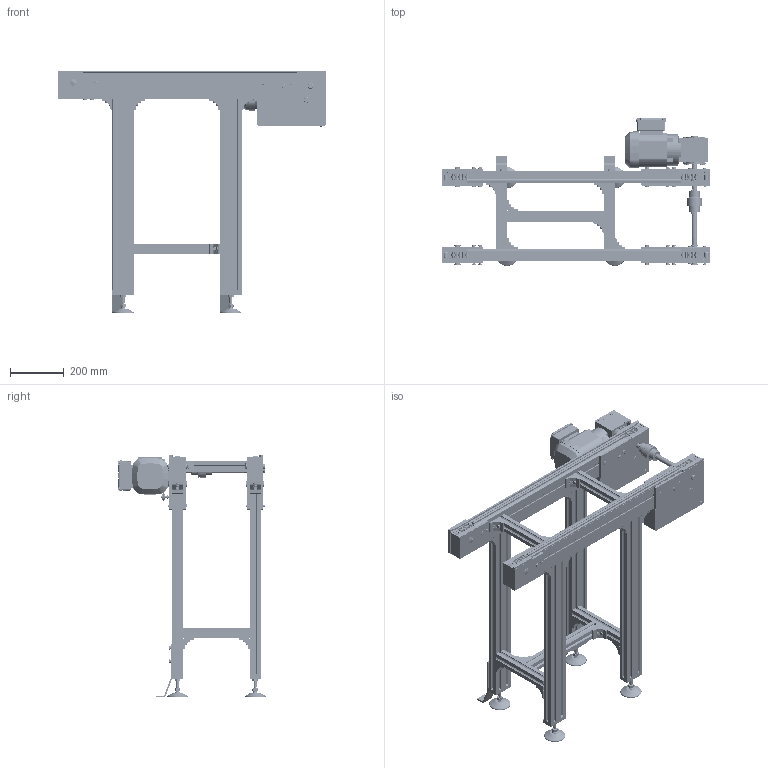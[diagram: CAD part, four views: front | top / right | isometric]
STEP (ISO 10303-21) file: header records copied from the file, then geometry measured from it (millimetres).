
FILE_DESCRIPTION(/* description */ (''),/* implementation_level */ '2;1');
FILE_NAME(/* name */ 'C:\Marketing\01_Versamove-SPU_STEP-Dateien-Homepage\VersamoveStandard\B320\Step-Dateien\Staurollenförderer_SRF-P-2045_B320_L1000.stp',/* time_stamp */ '2016-12-19T11:49:42+01:00',/* author */ ('herbert.engels'),/* organization */ (''),/* preprocessor_version */ 'ST-DEVELOPER v15.6',/* originating_system */ 'Autodesk Inventor 2015',/* authorisation */ '');
FILE_SCHEMA (('CONFIG_CONTROL_DESIGN'));
Products named in the file (1): Staurollenförderer_SRF-P-2045_B320_L1000
Bounding box: 1000 x 550.57 x 905.05 mm (x, y, z)
Volume: 18670697.3 mm3; surface area: 4598019 mm2
Topology: 7 solids, 7 shells, 5345 faces, 14333 edges, 9229 vertices
Faces by surface type: plane 3277, cylinder 1502, cone 377, torus 123, sphere 50, bspline 16
Full cylindrical faces by diameter (mm): 2 x8, 6 x12, 6.647 x8, 7.323 x4, 8 x66, 8.5 x48, 8.7 x4, 9 x8, 10 x4, 10.066 x1, 11.4 x24, 12 x8, 13 x74, 13.6 x8, 14 x40, 15 x8, 16 x10, 18 x4, 19 x4, 19.77 x4, 20 x17, 25 x1, 25.05 x4, 28 x1, 30 x2, 40 x2, 53 x1, 54 x2, 56 x3, 79 x4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
Entity records: 171819 total; most frequent: CARTESIAN_POINT 33745, ORIENTED_EDGE 27228, DIRECTION 27202, EDGE_CURVE 13605, AXIS2_PLACEMENT_3D 9190, VERTEX_POINT 9055, LINE 8822, VECTOR 8822
